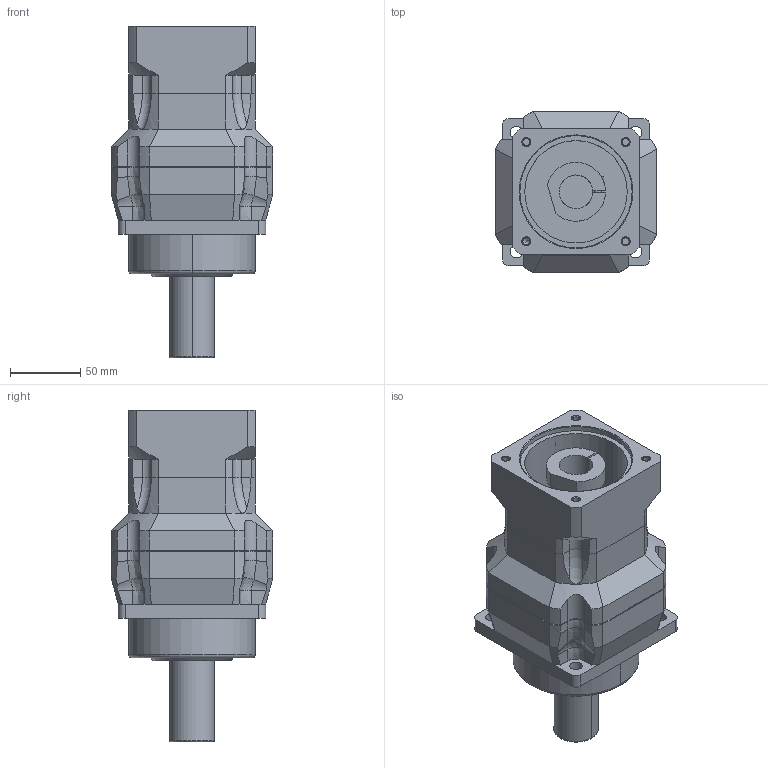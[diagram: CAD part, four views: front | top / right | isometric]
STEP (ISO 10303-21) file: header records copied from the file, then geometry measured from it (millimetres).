
FILE_DESCRIPTION((''),'2;1');
FILE_NAME('AF1002-P4030101_ASM','2005-09-13T',('jacky'),(''),'PRO/ENGINEER BY PARAMETRIC TECHNOLOGY CORPORATION, 2001280','PRO/ENGINEER BY PARAMETRIC TECHNOLOGY CORPORATION, 2001280','');
FILE_SCHEMA(('CONFIG_CONTROL_DESIGN'));
Length unit declared in the file: millimetre
Products named in the file (4): AF1002; AB1152-1; P4030101; AF1002-P4030101_ASM
Assembly tree (3 placements, depth 2):
  AF1002-P4030101_ASM
    AF1002
    AB1152-1
    P4030101
Bounding box: 115 x 115 x 236.5 mm (x, y, z)
Volume: 1401852.5 mm3; surface area: 145036.5 mm2
Topology: 3 solids, 8 shells, 307 faces, 753 edges, 466 vertices
Faces by surface type: plane 122, cylinder 97, bspline 40, cone 36, torus 12
Entity records: 11314 total; most frequent: CARTESIAN_POINT 4118, ORIENTED_EDGE 1476, DIRECTION 1447, EDGE_CURVE 749, AXIS2_PLACEMENT_3D 545, VERTEX_POINT 466, VECTOR 357, LINE 357
